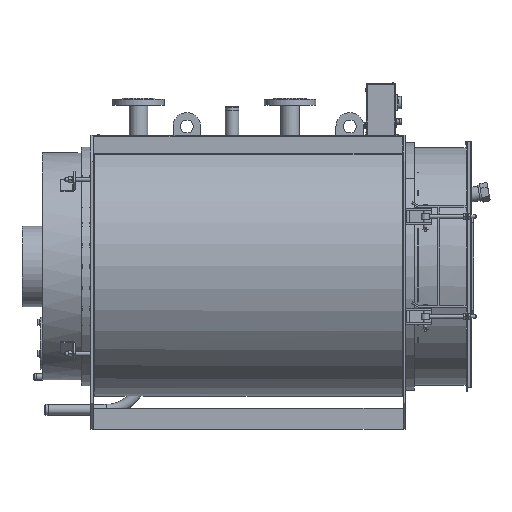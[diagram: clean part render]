
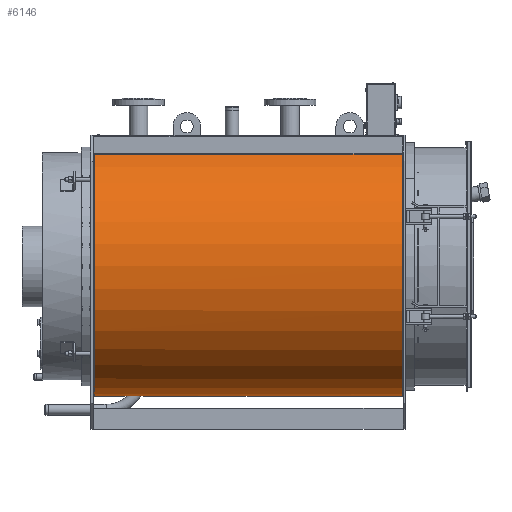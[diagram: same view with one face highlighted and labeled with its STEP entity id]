
A CAD part, front view. The second image highlights one B-rep face of the part: STEP entity #6146.
In plain terms, the highlighted cylindrical face has radius 401.7 mm (diameter 803.4 mm), a partial arc.
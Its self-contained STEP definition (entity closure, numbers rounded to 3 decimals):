
#6146=ADVANCED_FACE('',(#41627),#41629,.T.);
#41627=FACE_BOUND('',#41628,.T.);
#41628=EDGE_LOOP('',(#78058,#78059,#78060,#78061,#78062,#78063,#78064,#78065,#78066));
#41629=CYLINDRICAL_SURFACE('',#41630,401.7);
#41630=AXIS2_PLACEMENT_3D('',#41631,#41632,#41633);
#41631=CARTESIAN_POINT('',(-963.,0.,0.));
#41632=DIRECTION('',(1.,0.,0.));
#41633=DIRECTION('',(0.,0.037,0.999));
#78058=ORIENTED_EDGE('',*,*,#90355,.F.);
#78059=ORIENTED_EDGE('',*,*,#90367,.T.);
#78060=ORIENTED_EDGE('',*,*,#90767,.T.);
#78061=ORIENTED_EDGE('',*,*,#90768,.T.);
#78062=ORIENTED_EDGE('',*,*,#90769,.T.);
#78063=ORIENTED_EDGE('',*,*,#90770,.T.);
#78064=ORIENTED_EDGE('',*,*,#90771,.T.);
#78065=ORIENTED_EDGE('',*,*,#90772,.F.);
#78066=ORIENTED_EDGE('',*,*,#90368,.T.);
#90355=EDGE_CURVE('',#98429,#98430,#98431,.T.);
#90367=EDGE_CURVE('',#98429,#98449,#98451,.T.);
#90368=EDGE_CURVE('',#98452,#98430,#98453,.T.);
#90767=EDGE_CURVE('',#98449,#99113,#99114,.F.);
#90768=EDGE_CURVE('',#99113,#99115,#99116,.F.);
#90769=EDGE_CURVE('',#99115,#99117,#99118,.F.);
#90770=EDGE_CURVE('',#99117,#99119,#99120,.F.);
#90771=EDGE_CURVE('',#99119,#99121,#99122,.F.);
#90772=EDGE_CURVE('',#98452,#99121,#99123,.T.);
#98429=VERTEX_POINT('',#117200);
#98430=VERTEX_POINT('',#117201);
#98431=LINE('',#117202,#117203);
#98449=VERTEX_POINT('',#117280);
#98451=CIRCLE('',#117284,401.7);
#98452=VERTEX_POINT('',#117288);
#98453=CIRCLE('',#117289,401.7);
#99113=VERTEX_POINT('',#121947);
#99114=LINE('',#121948,#121949);
#99115=VERTEX_POINT('',#121951);
#99116=B_SPLINE_CURVE_WITH_KNOTS('',3,
(#121952,#121953,#121954,#121955,#121956,#121957,#121958,#121959,#121960,#121961,
#121962,#121963,#121964,#121965),
.UNSPECIFIED.,.F.,.F.,
(4,1,1,1,1,1,1,1,1,1,1,4),
(0.,0.109,0.204,0.29,0.377,0.467,
0.555,0.644,0.733,0.821,0.91,
1.),
.UNSPECIFIED.);
#99117=VERTEX_POINT('',#121966);
#99118=B_SPLINE_CURVE_WITH_KNOTS('',3,
(#121967,#121968,#121969,#121970,#121971,#121972,#121973,#121974,#121975,#121976,
#121977,#121978,#121979,#121980),
.UNSPECIFIED.,.F.,.F.,
(4,1,1,1,1,1,1,1,1,1,1,4),
(0.,0.109,0.204,0.289,0.377,0.467,
0.555,0.645,0.734,0.821,0.91,
1.),
.UNSPECIFIED.);
#99119=VERTEX_POINT('',#121981);
#99120=LINE('',#121982,#121983);
#99121=VERTEX_POINT('',#121985);
#99122=B_SPLINE_CURVE_WITH_KNOTS('',3,
(#121986,#121987,#121988,#121989,#121990,#121991,#121992,#121993,#121994,#121995,
#121996,#121997,#121998,#121999,#122000,#122001,#122002),
.UNSPECIFIED.,.F.,.F.,
(4,1,1,1,1,1,1,1,1,1,1,1,1,1,4),
(0.,0.087,0.163,0.23,0.3,0.372,
0.442,0.513,0.584,0.655,0.726,
0.798,0.867,0.935,1.),
.UNSPECIFIED.);
#99123=LINE('',#122003,#122004);
#117200=CARTESIAN_POINT('',(-963.,-200.,348.372));
#117201=CARTESIAN_POINT('',(-9.,-200.,348.372));
#117202=CARTESIAN_POINT('',(-963.,-200.,348.372));
#117203=VECTOR('',#117204,1.);
#117204=DIRECTION('',(1.,0.,0.));
#117280=CARTESIAN_POINT('',(-963.,-2.002,-401.695));
#117284=AXIS2_PLACEMENT_3D('',#117285,#117286,#117287);
#117285=CARTESIAN_POINT('',(-963.,0.,0.));
#117286=DIRECTION('',(1.,0.,0.));
#117287=DIRECTION('',(0.,-0.498,0.867));
#117288=CARTESIAN_POINT('',(-9.,0.,-401.7));
#117289=AXIS2_PLACEMENT_3D('',#117290,#117291,#117292);
#117290=CARTESIAN_POINT('',(-9.,0.,0.));
#117291=DIRECTION('',(-1.,0.,0.));
#117292=DIRECTION('',(0.,0.,-1.));
#121947=CARTESIAN_POINT('',(-887.583,-2.002,-401.695));
#121948=CARTESIAN_POINT('',(-887.583,-2.002,-401.695));
#121949=VECTOR('',#121950,1.);
#121950=DIRECTION('',(-1.,0.,0.));
#121951=CARTESIAN_POINT('',(-876.055,-9.674,-401.583));
#121952=CARTESIAN_POINT('',(-876.055,-9.674,-401.583));
#121953=CARTESIAN_POINT('',(-876.262,-9.181,-401.595));
#121954=CARTESIAN_POINT('',(-876.708,-8.283,-401.615));
#121955=CARTESIAN_POINT('',(-877.487,-7.097,-401.638));
#121956=CARTESIAN_POINT('',(-878.318,-6.083,-401.654));
#121957=CARTESIAN_POINT('',(-879.228,-5.177,-401.667));
#121958=CARTESIAN_POINT('',(-880.241,-4.359,-401.677));
#121959=CARTESIAN_POINT('',(-881.341,-3.647,-401.684));
#121960=CARTESIAN_POINT('',(-882.506,-3.055,-401.688));
#121961=CARTESIAN_POINT('',(-883.72,-2.591,-401.692));
#121962=CARTESIAN_POINT('',(-884.976,-2.254,-401.694));
#121963=CARTESIAN_POINT('',(-886.265,-2.048,-401.695));
#121964=CARTESIAN_POINT('',(-887.142,-2.002,-401.695));
#121965=CARTESIAN_POINT('',(-887.583,-2.002,-401.695));
#121966=CARTESIAN_POINT('',(-853.,-25.006,-400.921));
#121967=CARTESIAN_POINT('',(-853.,-25.006,-400.921));
#121968=CARTESIAN_POINT('',(-854.068,-25.006,-400.921));
#121969=CARTESIAN_POINT('',(-856.067,-24.877,-400.929));
#121970=CARTESIAN_POINT('',(-858.855,-24.359,-400.961));
#121971=CARTESIAN_POINT('',(-861.366,-23.611,-401.006));
#121972=CARTESIAN_POINT('',(-863.741,-22.633,-401.062));
#121973=CARTESIAN_POINT('',(-866.034,-21.396,-401.131));
#121974=CARTESIAN_POINT('',(-868.199,-19.916,-401.207));
#121975=CARTESIAN_POINT('',(-870.193,-18.222,-401.288));
#121976=CARTESIAN_POINT('',(-871.991,-16.337,-401.369));
#121977=CARTESIAN_POINT('',(-873.582,-14.278,-401.448));
#121978=CARTESIAN_POINT('',(-874.955,-12.062,-401.521));
#121979=CARTESIAN_POINT('',(-875.716,-10.485,-401.564));
#121980=CARTESIAN_POINT('',(-876.055,-9.674,-401.583));
#121981=CARTESIAN_POINT('',(-828.,-25.006,-400.921));
#121982=CARTESIAN_POINT('',(-828.,-25.006,-400.921));
#121983=VECTOR('',#121984,1.);
#121984=DIRECTION('',(-1.,0.,0.));
#121985=CARTESIAN_POINT('',(-803.,0.,-401.7));
#121986=CARTESIAN_POINT('',(-803.,0.,-401.7));
#121987=CARTESIAN_POINT('',(-803.,-1.138,-401.7));
#121988=CARTESIAN_POINT('',(-803.146,-3.27,-401.691));
#121989=CARTESIAN_POINT('',(-803.734,-6.235,-401.655));
#121990=CARTESIAN_POINT('',(-804.582,-8.897,-401.604));
#121991=CARTESIAN_POINT('',(-805.69,-11.402,-401.541));
#121992=CARTESIAN_POINT('',(-807.088,-13.804,-401.465));
#121993=CARTESIAN_POINT('',(-808.758,-16.051,-401.381));
#121994=CARTESIAN_POINT('',(-810.66,-18.091,-401.294));
#121995=CARTESIAN_POINT('',(-812.781,-19.909,-401.208));
#121996=CARTESIAN_POINT('',(-815.091,-21.478,-401.126));
#121997=CARTESIAN_POINT('',(-817.564,-22.782,-401.054));
#121998=CARTESIAN_POINT('',(-820.15,-23.796,-400.995));
#121999=CARTESIAN_POINT('',(-822.789,-24.507,-400.952));
#122000=CARTESIAN_POINT('',(-825.41,-24.917,-400.927));
#122001=CARTESIAN_POINT('',(-827.147,-25.006,-400.921));
#122002=CARTESIAN_POINT('',(-828.,-25.006,-400.921));
#122003=CARTESIAN_POINT('',(-9.,0.,-401.7));
#122004=VECTOR('',#122005,1.);
#122005=DIRECTION('',(-1.,0.,0.));
